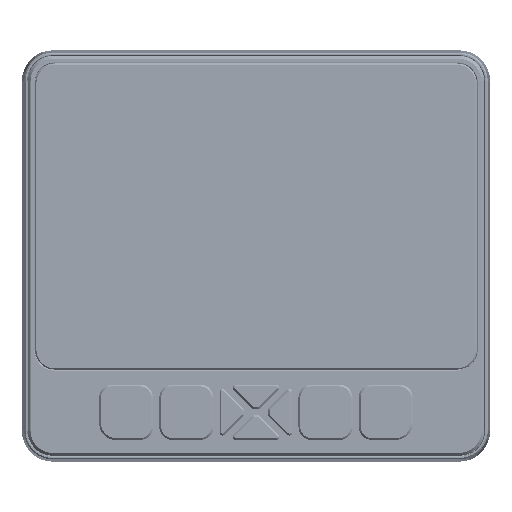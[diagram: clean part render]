
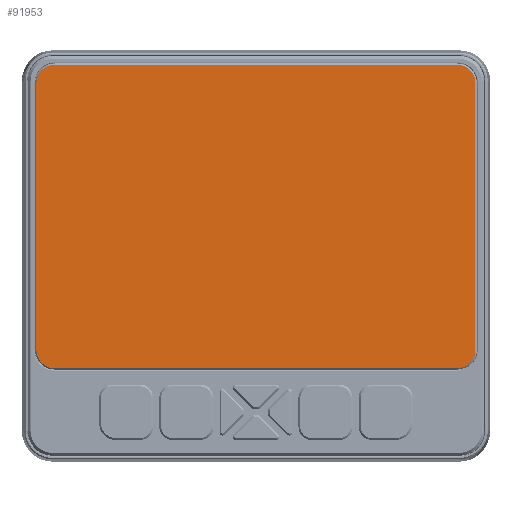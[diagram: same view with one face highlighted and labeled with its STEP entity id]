
A CAD part, top view. The second image highlights one B-rep face of the part: STEP entity #91953.
In plain terms, the highlighted planar face has unit normal (0, 0, 1).
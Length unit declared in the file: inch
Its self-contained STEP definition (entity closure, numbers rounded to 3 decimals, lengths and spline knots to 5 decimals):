
#4318 = CIRCLE ( 'NONE', #168736, 0.29802 ) ;
#4857 = AXIS2_PLACEMENT_3D ( 'NONE', #22344, #154362, #31174 ) ;
#9232 = ORIENTED_EDGE ( 'NONE', *, *, #129719, .T. ) ;
#17952 = PLANE ( 'NONE',  #102304 ) ;
#18151 = CARTESIAN_POINT ( 'NONE',  ( 3.27029, 2.46781, 0.11811 ) ) ;
#22344 = CARTESIAN_POINT ( 'NONE',  ( -3.27029, -2.16979, 0.11811 ) ) ;
#24694 = EDGE_CURVE ( 'NONE', #26098, #119207, #80631, .T. ) ;
#26098 = VERTEX_POINT ( 'NONE', #27774 ) ;
#27311 = CIRCLE ( 'NONE', #147221, 0.29802 ) ;
#27774 = CARTESIAN_POINT ( 'NONE',  ( 3.27029, -2.46781, 0.11811 ) ) ;
#31174 = DIRECTION ( 'NONE',  ( -1., 0., 0. ) ) ;
#34378 = CARTESIAN_POINT ( 'NONE',  ( 3.56831, 2.16979, 0.11811 ) ) ;
#40661 = DIRECTION ( 'NONE',  ( 0., 0., 1. ) ) ;
#43313 = VERTEX_POINT ( 'NONE', #151039 ) ;
#46985 = VERTEX_POINT ( 'NONE', #53535 ) ;
#48073 = CARTESIAN_POINT ( 'NONE',  ( -3.27029, -2.46781, 0.11811 ) ) ;
#49737 = EDGE_CURVE ( 'NONE', #59755, #26098, #84635, .T. ) ;
#49824 = CARTESIAN_POINT ( 'NONE',  ( 3.27029, 2.16979, 0.11811 ) ) ;
#53535 = CARTESIAN_POINT ( 'NONE',  ( -3.56831, -2.16979, 0.11811 ) ) ;
#53885 = CARTESIAN_POINT ( 'NONE',  ( 0., 2.46781, 0.11811 ) ) ;
#58767 = EDGE_LOOP ( 'NONE', ( #135326, #76177, #112085, #161224, #148175, #9232, #151848, #120948 ) ) ;
#59755 = VERTEX_POINT ( 'NONE', #48073 ) ;
#66634 = CARTESIAN_POINT ( 'NONE',  ( -3.27029, 2.46781, 0.11811 ) ) ;
#72454 = EDGE_CURVE ( 'NONE', #119207, #135053, #93470, .T. ) ;
#76177 = ORIENTED_EDGE ( 'NONE', *, *, #24694, .T. ) ;
#78686 = CIRCLE ( 'NONE', #4857, 0.29802 ) ;
#80631 = CIRCLE ( 'NONE', #149201, 0.29802 ) ;
#84635 = LINE ( 'NONE', #120865, #141132 ) ;
#90258 = CARTESIAN_POINT ( 'NONE',  ( 3.56831, 0., 0.11811 ) ) ;
#90932 = VECTOR ( 'NONE', #130068, 39.37008 ) ;
#91785 = CARTESIAN_POINT ( 'NONE',  ( -3.27029, 2.16979, 0.11811 ) ) ;
#91953 = ADVANCED_FACE ( 'NONE', ( #101589 ), #17952, .F. ) ;
#92053 = DIRECTION ( 'NONE',  ( 1., 0., 0. ) ) ;
#93470 = LINE ( 'NONE', #90258, #90932 ) ;
#95153 = DIRECTION ( 'NONE',  ( -1., 0., 0. ) ) ;
#101321 = CARTESIAN_POINT ( 'NONE',  ( 0., 0., 0.11811 ) ) ;
#101589 = FACE_OUTER_BOUND ( 'NONE', #58767, .T. ) ;
#102304 = AXIS2_PLACEMENT_3D ( 'NONE', #101321, #135610, #152319 ) ;
#103738 = DIRECTION ( 'NONE',  ( -1., 0., 0. ) ) ;
#104003 = VERTEX_POINT ( 'NONE', #66634 ) ;
#104545 = CARTESIAN_POINT ( 'NONE',  ( 3.27029, -2.16979, 0.11811 ) ) ;
#106444 = CARTESIAN_POINT ( 'NONE',  ( -3.56831, 0., 0.11811 ) ) ;
#111987 = VECTOR ( 'NONE', #103738, 39.37008 ) ;
#112085 = ORIENTED_EDGE ( 'NONE', *, *, #72454, .T. ) ;
#112287 = LINE ( 'NONE', #53885, #111987 ) ;
#113907 = EDGE_CURVE ( 'NONE', #135053, #115054, #4318, .T. ) ;
#115054 = VERTEX_POINT ( 'NONE', #18151 ) ;
#119207 = VERTEX_POINT ( 'NONE', #161590 ) ;
#120865 = CARTESIAN_POINT ( 'NONE',  ( 0., -2.46781, 0.11811 ) ) ;
#120948 = ORIENTED_EDGE ( 'NONE', *, *, #142248, .T. ) ;
#124355 = DIRECTION ( 'NONE',  ( 0., -1., 0. ) ) ;
#129719 = EDGE_CURVE ( 'NONE', #104003, #43313, #27311, .T. ) ;
#130068 = DIRECTION ( 'NONE',  ( 0., 1., 0. ) ) ;
#135053 = VERTEX_POINT ( 'NONE', #34378 ) ;
#135326 = ORIENTED_EDGE ( 'NONE', *, *, #49737, .T. ) ;
#135610 = DIRECTION ( 'NONE',  ( 0., 0., -1. ) ) ;
#139714 = EDGE_CURVE ( 'NONE', #43313, #46985, #154809, .T. ) ;
#141132 = VECTOR ( 'NONE', #92053, 39.37008 ) ;
#142248 = EDGE_CURVE ( 'NONE', #46985, #59755, #78686, .T. ) ;
#144504 = DIRECTION ( 'NONE',  ( -1., 0., 0. ) ) ;
#147221 = AXIS2_PLACEMENT_3D ( 'NONE', #91785, #40661, #95153 ) ;
#148175 = ORIENTED_EDGE ( 'NONE', *, *, #166099, .T. ) ;
#149201 = AXIS2_PLACEMENT_3D ( 'NONE', #104545, #168875, #144504 ) ;
#151039 = CARTESIAN_POINT ( 'NONE',  ( -3.56831, 2.16979, 0.11811 ) ) ;
#151848 = ORIENTED_EDGE ( 'NONE', *, *, #139714, .T. ) ;
#152319 = DIRECTION ( 'NONE',  ( -1., 0., 0. ) ) ;
#152949 = DIRECTION ( 'NONE',  ( 0., 0., 1. ) ) ;
#154213 = VECTOR ( 'NONE', #124355, 39.37008 ) ;
#154362 = DIRECTION ( 'NONE',  ( 0., 0., 1. ) ) ;
#154809 = LINE ( 'NONE', #106444, #154213 ) ;
#161224 = ORIENTED_EDGE ( 'NONE', *, *, #113907, .T. ) ;
#161590 = CARTESIAN_POINT ( 'NONE',  ( 3.56831, -2.16979, 0.11811 ) ) ;
#166099 = EDGE_CURVE ( 'NONE', #115054, #104003, #112287, .T. ) ;
#167433 = DIRECTION ( 'NONE',  ( -1., 0., 0. ) ) ;
#168736 = AXIS2_PLACEMENT_3D ( 'NONE', #49824, #152949, #167433 ) ;
#168875 = DIRECTION ( 'NONE',  ( 0., 0., 1. ) ) ;
